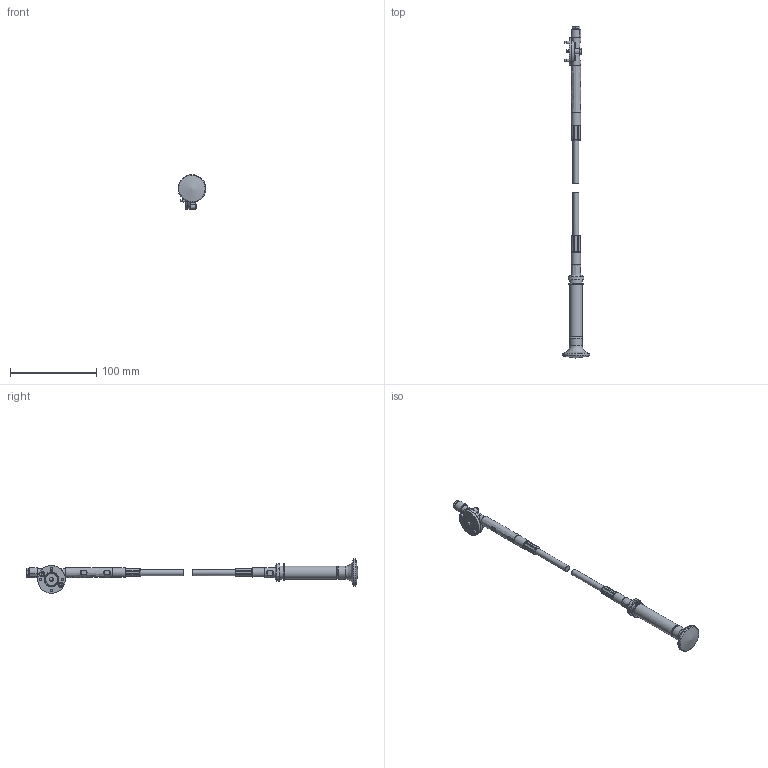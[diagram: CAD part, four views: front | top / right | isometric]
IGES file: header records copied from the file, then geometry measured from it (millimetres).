
Global section: file name: 2029040_Kundendaten_PSEN_ml_escape_release_cordset_1.5m_hd1; native system: Autodesk Inventor 2020; preprocessor: unknown; author: mmus ; date: 20200721.155638; units: millimetre
Bounding box: 31.97 x 385.9 x 40 mm (x, y, z)
Volume: 46716.3 mm3; surface area: 20232 mm2
Topology: 10 solids, 10 shells, 713 faces, 1838 edges, 1168 vertices
Faces by surface type: bspline 713
